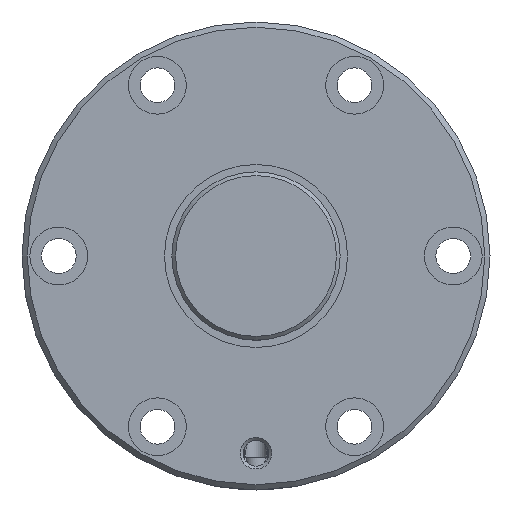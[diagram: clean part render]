
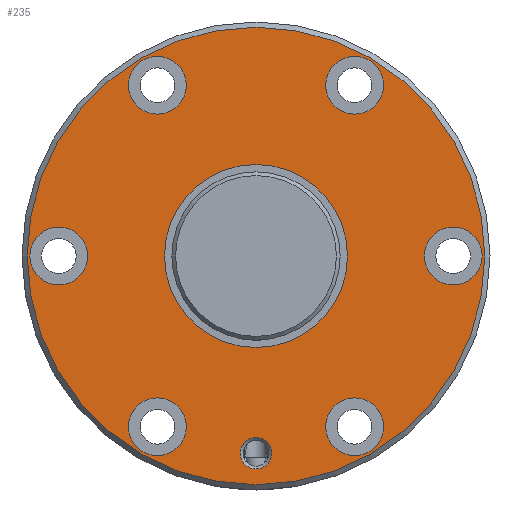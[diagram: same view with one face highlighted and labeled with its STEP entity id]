
A CAD part, left-side view. The second image highlights one B-rep face of the part: STEP entity #235.
In plain terms, the highlighted planar face has unit normal (-1, 0, 0).
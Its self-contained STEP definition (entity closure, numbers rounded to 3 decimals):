
#235 = ADVANCED_FACE( '', ( #458, #459, #460, #461, #462, #463, #464, #465, #466 ), #467, .T. );
#458 = FACE_BOUND( '', #755, .T. );
#459 = FACE_BOUND( '', #756, .T. );
#460 = FACE_BOUND( '', #757, .T. );
#461 = FACE_BOUND( '', #758, .T. );
#462 = FACE_BOUND( '', #759, .T. );
#463 = FACE_BOUND( '', #760, .T. );
#464 = FACE_BOUND( '', #761, .T. );
#465 = FACE_BOUND( '', #762, .T. );
#466 = FACE_OUTER_BOUND( '', #763, .T. );
#467 = PLANE( '', #764 );
#755 = EDGE_LOOP( '', ( #1304 ) );
#756 = EDGE_LOOP( '', ( #1305 ) );
#757 = EDGE_LOOP( '', ( #1306 ) );
#758 = EDGE_LOOP( '', ( #1307 ) );
#759 = EDGE_LOOP( '', ( #1308 ) );
#760 = EDGE_LOOP( '', ( #1309 ) );
#761 = EDGE_LOOP( '', ( #1310 ) );
#762 = EDGE_LOOP( '', ( #1311 ) );
#763 = EDGE_LOOP( '', ( #1312 ) );
#764 = AXIS2_PLACEMENT_3D( '', #1313, #1314, #1315 );
#1304 = ORIENTED_EDGE( '', *, *, #1628, .T. );
#1305 = ORIENTED_EDGE( '', *, *, #1629, .T. );
#1306 = ORIENTED_EDGE( '', *, *, #1516, .T. );
#1307 = ORIENTED_EDGE( '', *, *, #1630, .T. );
#1308 = ORIENTED_EDGE( '', *, *, #1631, .T. );
#1309 = ORIENTED_EDGE( '', *, *, #1632, .T. );
#1310 = ORIENTED_EDGE( '', *, *, #1633, .T. );
#1311 = ORIENTED_EDGE( '', *, *, #1634, .T. );
#1312 = ORIENTED_EDGE( '', *, *, #1635, .F. );
#1313 = CARTESIAN_POINT( '', ( 0., 43.5, 0. ) );
#1314 = DIRECTION( '', ( -1., 0., 0. ) );
#1315 = DIRECTION( '', ( 0., 0., 1. ) );
#1516 = EDGE_CURVE( '', #1709, #1709, #1710, .T. );
#1628 = EDGE_CURVE( '', #1893, #1893, #1894, .T. );
#1629 = EDGE_CURVE( '', #1895, #1895, #1896, .F. );
#1630 = EDGE_CURVE( '', #1897, #1897, #1898, .T. );
#1631 = EDGE_CURVE( '', #1899, #1899, #1900, .T. );
#1632 = EDGE_CURVE( '', #1901, #1901, #1902, .T. );
#1633 = EDGE_CURVE( '', #1903, #1903, #1904, .T. );
#1634 = EDGE_CURVE( '', #1905, #1905, #1906, .T. );
#1635 = EDGE_CURVE( '', #1907, #1907, #1908, .T. );
#1709 = VERTEX_POINT( '', #2113 );
#1710 = CIRCLE( '', #2114, 3. );
#1893 = VERTEX_POINT( '', #2848 );
#1894 = CIRCLE( '', #2849, 17.4 );
#1895 = VERTEX_POINT( '', #2850 );
#1896 = CIRCLE( '', #2851, 5.5 );
#1897 = VERTEX_POINT( '', #2852 );
#1898 = CIRCLE( '', #2853, 5.5 );
#1899 = VERTEX_POINT( '', #2854 );
#1900 = CIRCLE( '', #2855, 5.5 );
#1901 = VERTEX_POINT( '', #2856 );
#1902 = CIRCLE( '', #2857, 5.5 );
#1903 = VERTEX_POINT( '', #2858 );
#1904 = CIRCLE( '', #2859, 5.5 );
#1905 = VERTEX_POINT( '', #2860 );
#1906 = CIRCLE( '', #2861, 5.5 );
#1907 = VERTEX_POINT( '', #2862 );
#1908 = CIRCLE( '', #2863, 43.5 );
#2113 = CARTESIAN_POINT( '', ( 0., 0., -40.5 ) );
#2114 = AXIS2_PLACEMENT_3D( '', #2967, #2968, #2969 );
#2848 = CARTESIAN_POINT( '', ( 0., 0., -17.4 ) );
#2849 = AXIS2_PLACEMENT_3D( '', #3175, #3176, #3177 );
#2850 = CARTESIAN_POINT( '', ( 0., 37.5, 5.5 ) );
#2851 = AXIS2_PLACEMENT_3D( '', #3178, #3179, #3180 );
#2852 = CARTESIAN_POINT( '', ( 0., 18.75, 26.976 ) );
#2853 = AXIS2_PLACEMENT_3D( '', #3181, #3182, #3183 );
#2854 = CARTESIAN_POINT( '', ( 0., -18.75, -37.976 ) );
#2855 = AXIS2_PLACEMENT_3D( '', #3184, #3185, #3186 );
#2856 = CARTESIAN_POINT( '', ( 0., -18.75, 26.976 ) );
#2857 = AXIS2_PLACEMENT_3D( '', #3187, #3188, #3189 );
#2858 = CARTESIAN_POINT( '', ( 0., 18.75, -37.976 ) );
#2859 = AXIS2_PLACEMENT_3D( '', #3190, #3191, #3192 );
#2860 = CARTESIAN_POINT( '', ( 0., -37.5, -5.5 ) );
#2861 = AXIS2_PLACEMENT_3D( '', #3193, #3194, #3195 );
#2862 = CARTESIAN_POINT( '', ( 0., 0., -43.5 ) );
#2863 = AXIS2_PLACEMENT_3D( '', #3196, #3197, #3198 );
#2967 = CARTESIAN_POINT( '', ( 0., 0., -37.5 ) );
#2968 = DIRECTION( '', ( 1., 0., 0. ) );
#2969 = DIRECTION( '', ( 0., 0., -1. ) );
#3175 = CARTESIAN_POINT( '', ( 0., 0., 0. ) );
#3176 = DIRECTION( '', ( 1., 0., 0. ) );
#3177 = DIRECTION( '', ( 0., 0., -1. ) );
#3178 = CARTESIAN_POINT( '', ( 0., 37.5, 0. ) );
#3179 = DIRECTION( '', ( -1., 0., 0. ) );
#3180 = DIRECTION( '', ( 0., 0., 1. ) );
#3181 = CARTESIAN_POINT( '', ( 0., 18.75, 32.476 ) );
#3182 = DIRECTION( '', ( 1., 0., 0. ) );
#3183 = DIRECTION( '', ( 0., 0., -1. ) );
#3184 = CARTESIAN_POINT( '', ( 0., -18.75, -32.476 ) );
#3185 = DIRECTION( '', ( 1., 0., 0. ) );
#3186 = DIRECTION( '', ( 0., 0., -1. ) );
#3187 = CARTESIAN_POINT( '', ( 0., -18.75, 32.476 ) );
#3188 = DIRECTION( '', ( 1., 0., 0. ) );
#3189 = DIRECTION( '', ( 0., 0., -1. ) );
#3190 = CARTESIAN_POINT( '', ( 0., 18.75, -32.476 ) );
#3191 = DIRECTION( '', ( 1., 0., 0. ) );
#3192 = DIRECTION( '', ( 0., 0., -1. ) );
#3193 = CARTESIAN_POINT( '', ( 0., -37.5, 0. ) );
#3194 = DIRECTION( '', ( 1., 0., 0. ) );
#3195 = DIRECTION( '', ( 0., 0., -1. ) );
#3196 = CARTESIAN_POINT( '', ( 0., 0., 0. ) );
#3197 = DIRECTION( '', ( 1., 0., 0. ) );
#3198 = DIRECTION( '', ( 0., 0., -1. ) );
